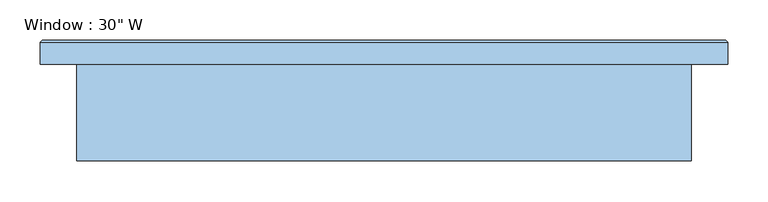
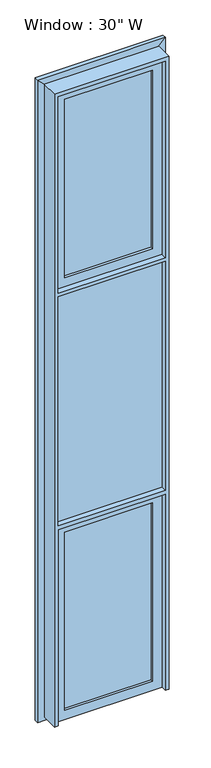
"""IFC4 building model written with IfcOpenShell, lengths in millimetres: window geometry."""

from ifc_helpers import new_model, si_unit, frame, origin, place, context, project, spatial, polyline, ellipse_curve, outline, extrude, faceted_brep, source, transform, mapped, element, save
from ifc_brep_helpers import plane_surface, cylinder_surface, advanced_brep


def window_1e283364(model_context):
    return source(origin(), model_context, "Body", "SolidModel", [
        faceted_brep([(368.3, 119.0625, 781.05), (370.2950984, 121.0575984, 781.05), (370.545064, 121.307564, 781.05), (395.945064, 121.307564, 781.05), (398.1901281, 123.5526281, 781.05), (423.5901281, 123.5526281, 781.05), (425.8351921, 121.307564, 781.05), (425.8351921, 121.0575984, 781.05), (425.8351921, 93.6625, 781.05), (368.3, 93.6625, 781.05), (368.3, 119.0625, 781.5176691), (368.3, 119.0625, 5232.4), (370.545064, 121.307564, 5234.645064), (395.945064, 121.307564, 5260.045064), (398.1901281, 123.5526281, 5262.2901281), (423.5901281, 123.5526281, 5287.6901281), (425.8351921, 121.307564, 5289.9351921), (425.8351921, 93.6625, 5289.9351921), (425.8351921, 93.6625, 787.4716586), (368.3, 93.6625, 5232.4), (368.3, 93.6625, 787.4716586), (-368.3, 119.0625, 5232.4), (-370.545064, 121.307564, 5234.645064), (-395.945064, 121.307564, 5260.045064), (-398.1901281, 123.5526281, 5262.2901281), (-423.5901281, 123.5526281, 5287.6901281), (-425.8351921, 121.307564, 5289.9351921), (-425.8351921, 93.6625, 5289.9351921), (-368.3, 93.6625, 5232.4), (-368.3, 119.0625, 781.05), (-368.3, 93.6625, 781.05), (-425.8351921, 93.6625, 781.05), (-425.8351921, 121.0575984, 781.05), (-425.8351921, 121.307564, 781.05), (-423.5901281, 123.5526281, 781.05), (-398.1901281, 123.5526281, 781.05), (-395.945064, 121.307564, 781.05), (-370.545064, 121.307564, 781.05), (-370.2950984, 121.0575984, 781.05), (-368.3, 119.0625, 781.5176691), (-425.8351921, 93.6625, 787.4716586), (-368.3, 93.6625, 787.4716586)], [[[0, 1, 2, 3, 4, 5, 6, 7, 8, 9]], [[2, 1, 0, 10, 11, 12]], [[3, 2, 12, 13]], [[4, 3, 13, 14]], [[5, 4, 14, 15]], [[6, 5, 15, 16]], [[8, 7, 6, 16, 17, 18]], [[9, 8, 18, 17, 19, 20]], [[0, 9, 20, 19, 11, 10]], [[12, 11, 21, 22]], [[13, 12, 22, 23]], [[14, 13, 23, 24]], [[15, 14, 24, 25]], [[16, 15, 25, 26]], [[17, 16, 26, 27]], [[19, 17, 27, 28]], [[11, 19, 28, 21]], [[29, 30, 31, 32, 33, 34, 35, 36, 37, 38]], [[22, 21, 39, 29, 38, 37]], [[23, 22, 37, 36]], [[24, 23, 36, 35]], [[25, 24, 35, 34]], [[26, 25, 34, 33]], [[27, 26, 33, 32, 31, 40]], [[28, 27, 40, 31, 30, 41]], [[21, 28, 41, 30, 29, 39]]]),
        extrude(outline(polyline([(2184.4, -355.6), (806.45, -355.6), (806.45, 355.6), (2184.4, 355.6), (2184.4, -355.6)]), holes=[polyline([(2120.9, -292.1), (2120.9, 292.1), (869.95, 292.1), (869.95, -292.1), (2120.9, -292.1)])]), frame((0.0, 12.7, 0.0), z_axis=(0.0, 1.0, 0.0), x_axis=(0.0, 0.0, 1.0)), (0.0, 0.0, 1.0), 50.6015625),
        extrude(outline(polyline([(5219.7, -355.6), (3841.75, -355.6), (3841.75, 355.6), (5219.7, 355.6), (5219.7, -355.6)]), holes=[polyline([(5156.2, -292.1), (5156.2, 292.1), (3905.25, 292.1), (3905.25, -292.1), (5156.2, -292.1)])]), frame((0.0, 12.7, 0.0), z_axis=(0.0, 1.0, 0.0), x_axis=(0.0, 0.0, 1.0)), (0.0, 0.0, 1.0), 50.6015625),
        extrude(outline(polyline([(355.6, 12.7), (-355.6, 12.7), (-355.6, 63.3015625), (355.6, 63.3015625), (355.6, 12.7)])), frame((0.0, 0.0, 2209.8), z_axis=(0.0, 0.0, 1.0), x_axis=(1.0, 0.0, 0.0)), (0.0, 0.0, 1.0), 1606.55),
        extrude(outline(polyline([(5245.1, -381.0), (806.45, -381.0), (806.45, -355.6), (2184.4, -355.6), (2184.4, 355.6), (806.45, 355.6), (806.45, 381.0), (5245.1, 381.0), (5245.1, -381.0)]), holes=[polyline([(5219.7, -355.6), (5219.7, 355.6), (3841.75, 355.6), (3841.75, -355.6), (5219.7, -355.6)]), polyline([(3816.35, -355.6), (3816.35, 355.6), (2209.8, 355.6), (2209.8, -355.6), (3816.35, -355.6)])]), frame((0.0, -25.4, 0.0), z_axis=(0.0, 1.0, 0.0), x_axis=(0.0, 0.0, 1.0)), (0.0, 0.0, 1.0), 119.0625),
        extrude(outline(polyline([(292.1, 29.5671875), (-292.1, 29.5671875), (-292.1, 46.434375), (292.1, 46.434375), (292.1, 29.5671875)])), frame((0.0, 0.0, 869.95), z_axis=(0.0, 0.0, 1.0), x_axis=(1.0, 0.0, 0.0)), (0.0, 0.0, 1.0), 1250.95),
        extrude(outline(polyline([(-292.1, 46.434375), (292.1, 46.434375), (292.1, 29.5671875), (-292.1, 29.5671875), (-292.1, 46.434375)])), frame((0.0, 0.0, 3905.25), z_axis=(0.0, 0.0, 1.0), x_axis=(1.0, 0.0, 0.0)), (0.0, 0.0, 1.0), 1250.95),
        extrude(outline(polyline([(-254.0, 88.7015625), (254.0, 88.7015625), (254.0, 63.3015625), (-254.0, 63.3015625), (-254.0, 88.7015625)])), frame((0.0, 0.0, 2311.4), z_axis=(0.0, 0.0, 1.0), x_axis=(1.0, 0.0, 0.0)), (0.0, 0.0, 1.0), 1403.35),
        advanced_brep(
        [(-254.0, 63.3015625, 3714.75), (-279.4, 63.3015625, 3740.15), (-279.4, 63.3015625, 2286.0), (-254.0, 63.3015625, 2311.4), (-254.0, 88.7015625, 3714.75), (-254.0, 88.7015625, 2311.4), (-257.175, 88.7015625, 3717.925), (-257.175, 88.7015625, 2308.225), (-257.175, 85.5265625, 3717.925), (-257.175, 85.5265625, 2308.225), (-276.225, 66.4765625, 3736.975), (-276.225, 66.4765625, 2289.175), (-279.4, 66.4765625, 3740.15), (-279.4, 66.4765625, 2286.0), (279.4, 63.3015625, 2286.0), (254.0, 63.3015625, 2311.4), (254.0, 88.7015625, 2311.4), (257.175, 88.7015625, 2308.225), (257.175, 85.5265625, 2308.225), (276.225, 66.4765625, 2289.175), (279.4, 66.4765625, 2286.0), (279.4, 63.3015625, 3740.15), (254.0, 63.3015625, 3714.75), (254.0, 88.7015625, 3714.75), (257.175, 88.7015625, 3717.925), (257.175, 85.5265625, 3717.925), (276.225, 66.4765625, 3736.975), (279.4, 66.4765625, 3740.15)],
        [
            (0, 1),
            (1, 2),
            (2, 3),
            (3, 0),
            (4, 0),
            (3, 5),
            (5, 4),
            (6, 4),
            (5, 7),
            (7, 6),
            (8, 6),
            (7, 9),
            (9, 8),
            (10, 8, ellipse_curve(frame((-257.175, 66.4765625, 3717.925), z_axis=(-0.7071067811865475, 0.0, -0.7071067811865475), x_axis=(-0.7071067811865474, 0.0, 0.7071067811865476)), 26.9407684, 19.05)),
            (9, 11, ellipse_curve(frame((-257.175, 66.4765625, 2308.225), z_axis=(-0.7071067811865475, 0.0, 0.7071067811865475), x_axis=(0.7071067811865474, 0.0, 0.7071067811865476)), 26.9407684, 19.05)),
            (11, 10),
            (12, 10),
            (11, 13),
            (13, 12),
            (1, 12),
            (13, 2),
            (2, 14),
            (14, 15),
            (15, 3),
            (15, 16),
            (16, 5),
            (16, 17),
            (17, 7),
            (17, 18),
            (18, 9),
            (18, 19, ellipse_curve(frame((257.175, 66.4765625, 2308.225), z_axis=(-0.7071067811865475, 0.0, -0.7071067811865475), x_axis=(-0.7071067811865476, 0.0, 0.7071067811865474)), 26.9407684, 19.05)),
            (19, 11),
            (19, 20),
            (20, 13),
            (20, 14),
            (14, 21),
            (21, 22),
            (22, 15),
            (22, 23),
            (23, 16),
            (23, 24),
            (24, 17),
            (24, 25),
            (25, 18),
            (25, 26, ellipse_curve(frame((257.175, 66.4765625, 3717.925), z_axis=(0.7071067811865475, 0.0, -0.7071067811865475), x_axis=(-0.7071067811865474, 0.0, -0.7071067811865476)), 26.9407684, 19.05)),
            (26, 19),
            (26, 27),
            (27, 20),
            (27, 21),
            (21, 1),
            (0, 22),
            (4, 23),
            (6, 24),
            (8, 25),
            (10, 26),
            (12, 27),
        ],
        [
            plane_surface(frame((-279.4, 63.3015625, 3740.15), z_axis=(0.0, -1.0, 0.0), x_axis=(0.0, 0.0, -1.0))),
            plane_surface(frame((-254.0, 63.3015625, 3714.75), z_axis=(1.0, 0.0, 0.0), x_axis=(0.0, 0.0, -1.0))),
            plane_surface(frame((-254.0, 88.7015625, 3714.75), z_axis=(0.0, 1.0, 0.0), x_axis=(0.0, 0.0, -1.0))),
            plane_surface(frame((-257.175, 88.7015625, 3717.925), z_axis=(-1.0, 0.0, 0.0), x_axis=(0.0, 0.0, -1.0))),
            cylinder_surface(frame((-257.175, 66.4765625, 3714.75), z_axis=(0.0, 0.0, 1.0), x_axis=(1.0, 0.0, 0.0)), 19.05),
            plane_surface(frame((-276.225, 66.4765625, 3736.975), z_axis=(0.0, 1.0, 0.0), x_axis=(0.0, 0.0, -1.0))),
            plane_surface(frame((-279.4, 66.4765625, 3740.15), z_axis=(-1.0, 0.0, 0.0), x_axis=(0.0, 0.0, -1.0))),
            plane_surface(frame((-279.4, 63.3015625, 2286.0), z_axis=(0.0, -1.0, 0.0), x_axis=(1.0, 0.0, 0.0))),
            plane_surface(frame((-254.0, 63.3015625, 2311.4), z_axis=(0.0, 0.0, 1.0), x_axis=(1.0, 0.0, 0.0))),
            plane_surface(frame((-254.0, 88.7015625, 2311.4), z_axis=(0.0, 1.0, 0.0), x_axis=(1.0, 0.0, 0.0))),
            plane_surface(frame((-257.175, 88.7015625, 2308.225), z_axis=(0.0, 0.0, -1.0), x_axis=(1.0, 0.0, 0.0))),
            cylinder_surface(frame((-254.0, 66.4765625, 2308.225), z_axis=(-1.0, 0.0, 0.0), x_axis=(0.0, 0.0, 1.0)), 19.05),
            plane_surface(frame((-276.225, 66.4765625, 2289.175), z_axis=(0.0, 1.0, 0.0), x_axis=(1.0, 0.0, 0.0))),
            plane_surface(frame((-279.4, 66.4765625, 2286.0), z_axis=(0.0, 0.0, -1.0), x_axis=(1.0, 0.0, 0.0))),
            plane_surface(frame((279.4, 63.3015625, 2286.0), z_axis=(0.0, -1.0, 0.0), x_axis=(0.0, 0.0, 1.0))),
            plane_surface(frame((254.0, 63.3015625, 2311.4), z_axis=(-1.0, 0.0, 0.0), x_axis=(0.0, 0.0, 1.0))),
            plane_surface(frame((254.0, 88.7015625, 2311.4), z_axis=(0.0, 1.0, 0.0), x_axis=(0.0, 0.0, 1.0))),
            plane_surface(frame((257.175, 88.7015625, 2308.225), z_axis=(1.0, 0.0, 0.0), x_axis=(0.0, 0.0, 1.0))),
            cylinder_surface(frame((257.175, 66.4765625, 2311.4), z_axis=(0.0, 0.0, -1.0), x_axis=(-1.0, 0.0, 0.0)), 19.05),
            plane_surface(frame((276.225, 66.4765625, 2289.175), z_axis=(0.0, 1.0, 0.0), x_axis=(0.0, 0.0, 1.0))),
            plane_surface(frame((279.4, 66.4765625, 2286.0), z_axis=(1.0, 0.0, 0.0), x_axis=(0.0, 0.0, 1.0))),
            plane_surface(frame((279.4, 63.3015625, 3740.15), z_axis=(0.0, -1.0, 0.0), x_axis=(-1.0, 0.0, 0.0))),
            plane_surface(frame((254.0, 63.3015625, 3714.75), z_axis=(0.0, 0.0, -1.0), x_axis=(-1.0, 0.0, 0.0))),
            plane_surface(frame((254.0, 88.7015625, 3714.75), z_axis=(0.0, 1.0, 0.0), x_axis=(-1.0, 0.0, 0.0))),
            plane_surface(frame((257.175, 88.7015625, 3717.925), z_axis=(0.0, 0.0, 1.0), x_axis=(-1.0, 0.0, 0.0))),
            cylinder_surface(frame((254.0, 66.4765625, 3717.925), z_axis=(1.0, 0.0, 0.0), x_axis=(0.0, 0.0, -1.0)), 19.05),
            plane_surface(frame((276.225, 66.4765625, 3736.975), z_axis=(0.0, 1.0, 0.0), x_axis=(-1.0, 0.0, 0.0))),
            plane_surface(frame((279.4, 66.4765625, 3740.15), z_axis=(0.0, 0.0, 1.0), x_axis=(-1.0, 0.0, 0.0))),
        ],
        [
            (0, [[1, 2, 3, 4]]),
            (1, [[5, -4, 6, 7]]),
            (2, [[8, -7, 9, 10]]),
            (3, [[11, -10, 12, 13]]),
            (4, [[14, -13, 15, 16]]),
            (5, [[17, -16, 18, 19]]),
            (6, [[20, -19, 21, -2]]),
            (7, [[-3, 22, 23, 24]]),
            (8, [[-6, -24, 25, 26]]),
            (9, [[-9, -26, 27, 28]]),
            (10, [[-12, -28, 29, 30]]),
            (11, [[-15, -30, 31, 32]]),
            (12, [[-18, -32, 33, 34]]),
            (13, [[-21, -34, 35, -22]]),
            (14, [[-23, 36, 37, 38]]),
            (15, [[-25, -38, 39, 40]]),
            (16, [[-27, -40, 41, 42]]),
            (17, [[-29, -42, 43, 44]]),
            (18, [[-31, -44, 45, 46]]),
            (19, [[-33, -46, 47, 48]]),
            (20, [[-35, -48, 49, -36]]),
            (21, [[-37, 50, -1, 51]]),
            (22, [[-39, -51, -5, 52]]),
            (23, [[-41, -52, -8, 53]]),
            (24, [[-43, -53, -11, 54]]),
            (25, [[-45, -54, -14, 55]]),
            (26, [[-47, -55, -17, 56]]),
            (27, [[-49, -56, -20, -50]]),
        ],
    ),
    ])


if __name__ == "__main__":
    model = new_model("IFC4")
    model_context = context("Model", 3, world=origin())
    ifc_project = project(units=[si_unit("LENGTHUNIT", "METRE", prefix="MILLI")], contexts=[model_context])
    site = spatial("IfcSite", under=ifc_project)
    building = spatial("IfcBuilding", under=site)
    placement = place(None, origin())
    window_shape = window_1e283364(model_context)
    element("IfcWindow", 1, ObjectType="Window : 30\" W", at=placement, inside=building, context=model_context, shape_type="MappedRepresentation", body=[
        mapped(window_shape, transform((0.0, 0.0, 0.0), x_axis=(1.0, 0.0, 0.0), y_axis=(0.0, 1.0, 0.0), z_axis=(0.0, 0.0, 1.0))),
    ])
    save(model, "model.ifc")
